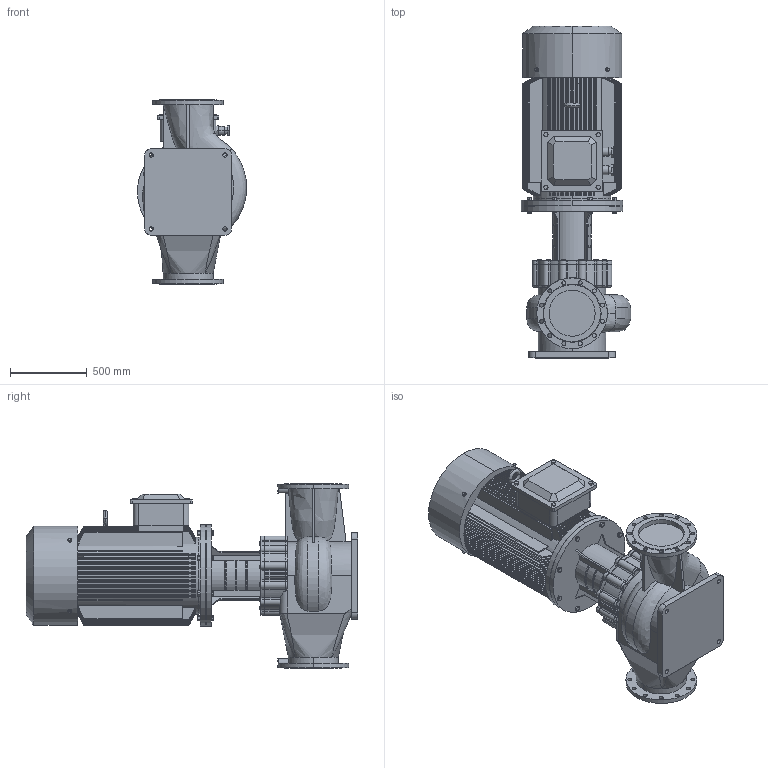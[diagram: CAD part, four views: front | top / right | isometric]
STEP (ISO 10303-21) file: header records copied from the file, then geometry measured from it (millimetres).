
FILE_DESCRIPTION(/* description */ (''),/* implementation_level */ '2;1');
FILE_NAME(/* name */ 'TD300-44-4安装尺寸图.stp',/* time_stamp */ '2026-09-08T08:34:20+08:00',/* author */ (''),/* organization */ (''),/* preprocessor_version */ 'ST-DEVELOPER v16.7',/* originating_system */ 'SIEMENS PLM Software NX 1847',/* authorisation */ '');
FILE_SCHEMA (('AP203_CONFIGURATION_CONTROLLED_3D_DESIGN_OF_MECHANICAL_PARTS_AND_ASSEMBLIES_MIM_LF { 1 0 10303 403 2 1 2}'));
Products named in the file (1): Admi3A7838220ro9
Bounding box: 710.93 x 2159 x 1200 mm (x, y, z)
Volume: 591412328.5 mm3; surface area: 15791703.5 mm2
Topology: 1 solids, 10 shells, 1822 faces, 4444 edges, 2735 vertices
Faces by surface type: plane 678, cylinder 506, cone 487, torus 100, bspline 27, sphere 24
Full cylindrical faces by diameter (mm): 15.682 x12, 19.623 x16, 22.49 x12, 28.19 x8, 300 x1, 660 x1
Entity records: 61478 total; most frequent: CARTESIAN_POINT 19939, ORIENTED_EDGE 8640, DIRECTION 8551, EDGE_CURVE 4320, AXIS2_PLACEMENT_3D 3506, VERTEX_POINT 2702, EDGE_LOOP 2106, ADVANCED_FACE 1822
